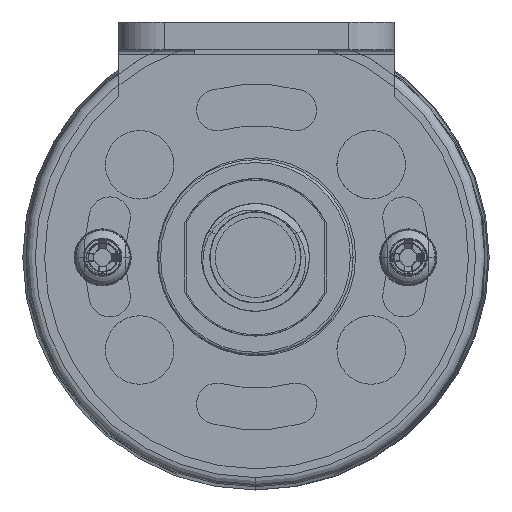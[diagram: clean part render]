
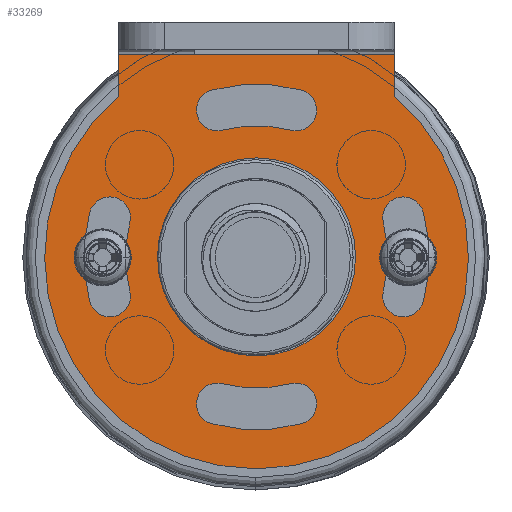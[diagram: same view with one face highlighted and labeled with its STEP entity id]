
A CAD part, front view. The second image highlights one B-rep face of the part: STEP entity #33269.
In plain terms, the highlighted planar face has unit normal (0, -1, 0).
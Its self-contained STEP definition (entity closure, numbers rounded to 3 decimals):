
#32469=CARTESIAN_POINT('',(0.,0.,0.));
#32470=DIRECTION('',(0.,-1.,0.));
#32471=DIRECTION('',(1.,0.,0.));
#32472=AXIS2_PLACEMENT_3D('',#32469,#32470,#32471);
#32474=CARTESIAN_POINT('',(0.,0.,0.));
#32475=DIRECTION('',(0.,-1.,0.));
#32476=DIRECTION('',(-1.,0.,0.));
#32477=AXIS2_PLACEMENT_3D('',#32474,#32475,#32476);
#32479=CARTESIAN_POINT('',(0.,0.,0.));
#32480=DIRECTION('',(0.,1.,0.));
#32481=DIRECTION('',(0.259,0.,-0.966));
#32482=AXIS2_PLACEMENT_3D('',#32479,#32480,#32481);
#32484=CARTESIAN_POINT('',(-4.271,0.,-15.938));
#32485=DIRECTION('',(0.,-1.,0.));
#32486=DIRECTION('',(0.259,0.,0.966));
#32487=AXIS2_PLACEMENT_3D('',#32484,#32485,#32486);
#32489=CARTESIAN_POINT('',(0.,0.,0.));
#32490=DIRECTION('',(0.,-1.,0.));
#32491=DIRECTION('',(-0.259,0.,-0.966));
#32492=AXIS2_PLACEMENT_3D('',#32489,#32490,#32491);
#32494=CARTESIAN_POINT('',(4.271,0.,-15.938));
#32495=DIRECTION('',(0.,-1.,0.));
#32496=DIRECTION('',(0.259,0.,-0.966));
#32497=AXIS2_PLACEMENT_3D('',#32494,#32495,#32496);
#32499=CARTESIAN_POINT('',(-15.938,0.,-4.271));
#32500=DIRECTION('',(0.,-1.,0.));
#32501=DIRECTION('',(-0.966,0.,-0.259));
#32502=AXIS2_PLACEMENT_3D('',#32499,#32500,#32501);
#32504=CARTESIAN_POINT('',(0.,0.,0.));
#32505=DIRECTION('',(0.,1.,0.));
#32506=DIRECTION('',(-0.966,0.,-0.259));
#32507=AXIS2_PLACEMENT_3D('',#32504,#32505,#32506);
#32509=CARTESIAN_POINT('',(-15.938,0.,4.271));
#32510=DIRECTION('',(0.,-1.,0.));
#32511=DIRECTION('',(0.966,0.,-0.259));
#32512=AXIS2_PLACEMENT_3D('',#32509,#32510,#32511);
#32514=CARTESIAN_POINT('',(0.,0.,0.));
#32515=DIRECTION('',(0.,-1.,0.));
#32516=DIRECTION('',(-0.966,0.,0.259));
#32517=AXIS2_PLACEMENT_3D('',#32514,#32515,#32516);
#32519=CARTESIAN_POINT('',(-4.271,0.,15.938));
#32520=DIRECTION('',(0.,-1.,0.));
#32521=DIRECTION('',(-0.259,0.,0.966));
#32522=AXIS2_PLACEMENT_3D('',#32519,#32520,#32521);
#32524=CARTESIAN_POINT('',(0.,0.,0.));
#32525=DIRECTION('',(0.,1.,0.));
#32526=DIRECTION('',(-0.259,0.,0.966));
#32527=AXIS2_PLACEMENT_3D('',#32524,#32525,#32526);
#32529=CARTESIAN_POINT('',(4.271,0.,15.938));
#32530=DIRECTION('',(0.,-1.,0.));
#32531=DIRECTION('',(-0.259,0.,-0.966));
#32532=AXIS2_PLACEMENT_3D('',#32529,#32530,#32531);
#32534=CARTESIAN_POINT('',(0.,0.,0.));
#32535=DIRECTION('',(0.,-1.,0.));
#32536=DIRECTION('',(0.259,0.,0.966));
#32537=AXIS2_PLACEMENT_3D('',#32534,#32535,#32536);
#32539=CARTESIAN_POINT('',(15.938,0.,4.271));
#32540=DIRECTION('',(0.,-1.,0.));
#32541=DIRECTION('',(0.966,0.,0.259));
#32542=AXIS2_PLACEMENT_3D('',#32539,#32540,#32541);
#32544=CARTESIAN_POINT('',(0.,0.,0.));
#32545=DIRECTION('',(0.,1.,0.));
#32546=DIRECTION('',(0.966,0.,0.259));
#32547=AXIS2_PLACEMENT_3D('',#32544,#32545,#32546);
#32549=CARTESIAN_POINT('',(15.938,0.,-4.271));
#32550=DIRECTION('',(0.,-1.,0.));
#32551=DIRECTION('',(-0.966,0.,0.259));
#32552=AXIS2_PLACEMENT_3D('',#32549,#32550,#32551);
#32554=CARTESIAN_POINT('',(0.,0.,0.));
#32555=DIRECTION('',(0.,-1.,0.));
#32556=DIRECTION('',(0.966,0.,-0.259));
#32557=AXIS2_PLACEMENT_3D('',#32554,#32555,#32556);
#32559=DIRECTION('',(-1.,0.,0.));
#32560=VECTOR('',#32559,13.5);
#32561=CARTESIAN_POINT('',(6.75,0.,-22.));
#32562=LINE('',#32561,#32560);
#32563=DIRECTION('',(0.,0.,1.));
#32564=VECTOR('',#32563,4.564);
#32565=CARTESIAN_POINT('',(-15.,0.,-22.));
#32566=LINE('',#32565,#32564);
#32567=CARTESIAN_POINT('',(0.,0.,0.));
#32568=DIRECTION('',(0.,1.,0.));
#32569=DIRECTION('',(-0.652,0.,-0.758));
#32570=AXIS2_PLACEMENT_3D('',#32567,#32568,#32569);
#32572=DIRECTION('',(0.,0.,-1.));
#32573=VECTOR('',#32572,4.564);
#32574=CARTESIAN_POINT('',(15.,0.,-17.436));
#32575=LINE('',#32574,#32573);
#32649=DIRECTION('',(1.,0.,0.));
#32650=VECTOR('',#32649,8.25);
#32651=CARTESIAN_POINT('',(6.75,0.,-22.));
#32652=LINE('',#32651,#32650);
#32667=DIRECTION('',(1.,0.,0.));
#32668=VECTOR('',#32667,8.25);
#32669=CARTESIAN_POINT('',(-15.,0.,-22.));
#32670=LINE('',#32669,#32668);
#32984=CARTESIAN_POINT('',(10.75,0.,0.));
#32985=CARTESIAN_POINT('',(-10.75,0.,0.));
#32986=VERTEX_POINT('',#32984);
#32987=VERTEX_POINT('',#32985);
#32988=CARTESIAN_POINT('',(3.688,0.,-13.764));
#32989=CARTESIAN_POINT('',(-3.688,0.,-13.764));
#32990=VERTEX_POINT('',#32988);
#32991=VERTEX_POINT('',#32989);
#32992=CARTESIAN_POINT('',(-4.853,0.,-18.111));
#32993=VERTEX_POINT('',#32992);
#32994=CARTESIAN_POINT('',(4.853,0.,-18.111));
#32995=VERTEX_POINT('',#32994);
#32996=CARTESIAN_POINT('',(-18.111,0.,-4.853));
#32997=CARTESIAN_POINT('',(-13.764,0.,-3.688));
#32998=VERTEX_POINT('',#32996);
#32999=VERTEX_POINT('',#32997);
#33000=CARTESIAN_POINT('',(-13.764,0.,3.688));
#33001=VERTEX_POINT('',#33000);
#33002=CARTESIAN_POINT('',(-18.111,0.,4.853));
#33003=VERTEX_POINT('',#33002);
#33004=CARTESIAN_POINT('',(-4.853,0.,18.111));
#33005=CARTESIAN_POINT('',(-3.688,0.,13.764));
#33006=VERTEX_POINT('',#33004);
#33007=VERTEX_POINT('',#33005);
#33008=CARTESIAN_POINT('',(3.688,0.,13.764));
#33009=VERTEX_POINT('',#33008);
#33010=CARTESIAN_POINT('',(4.853,0.,18.111));
#33011=VERTEX_POINT('',#33010);
#33012=CARTESIAN_POINT('',(18.111,0.,4.853));
#33013=CARTESIAN_POINT('',(13.764,0.,3.688));
#33014=VERTEX_POINT('',#33012);
#33015=VERTEX_POINT('',#33013);
#33016=CARTESIAN_POINT('',(13.764,0.,-3.688));
#33017=VERTEX_POINT('',#33016);
#33018=CARTESIAN_POINT('',(18.111,0.,-4.853));
#33019=VERTEX_POINT('',#33018);
#33020=CARTESIAN_POINT('',(-15.,0.,-17.436));
#33021=CARTESIAN_POINT('',(15.,0.,-17.436));
#33022=VERTEX_POINT('',#33020);
#33023=VERTEX_POINT('',#33021);
#33028=CARTESIAN_POINT('',(15.,0.,-22.));
#33029=VERTEX_POINT('',#33028);
#33030=CARTESIAN_POINT('',(-15.,0.,-22.));
#33031=VERTEX_POINT('',#33030);
#33048=CARTESIAN_POINT('',(6.75,0.,-22.));
#33049=CARTESIAN_POINT('',(-6.75,0.,-22.));
#33050=VERTEX_POINT('',#33048);
#33051=VERTEX_POINT('',#33049);
#33206=CARTESIAN_POINT('',(0.,0.,0.));
#33207=DIRECTION('',(0.,1.,0.));
#33208=DIRECTION('',(1.,0.,0.));
#33209=AXIS2_PLACEMENT_3D('',#33206,#33207,#33208);
#33210=PLANE('',#33209);
#33212=ORIENTED_EDGE('',*,*,#33211,.F.);
#33214=ORIENTED_EDGE('',*,*,#33213,.T.);
#33216=ORIENTED_EDGE('',*,*,#33215,.F.);
#33218=ORIENTED_EDGE('',*,*,#33217,.T.);
#33220=ORIENTED_EDGE('',*,*,#33219,.T.);
#33222=ORIENTED_EDGE('',*,*,#33221,.T.);
#33223=EDGE_LOOP('',(#33212,#33214,#33216,#33218,#33220,#33222));
#33224=FACE_OUTER_BOUND('',#33223,.F.);
#33226=ORIENTED_EDGE('',*,*,#33225,.T.);
#33228=ORIENTED_EDGE('',*,*,#33227,.T.);
#33230=ORIENTED_EDGE('',*,*,#33229,.T.);
#33232=ORIENTED_EDGE('',*,*,#33231,.T.);
#33233=EDGE_LOOP('',(#33226,#33228,#33230,#33232));
#33234=FACE_BOUND('',#33233,.F.);
#33236=ORIENTED_EDGE('',*,*,#33235,.T.);
#33238=ORIENTED_EDGE('',*,*,#33237,.T.);
#33240=ORIENTED_EDGE('',*,*,#33239,.T.);
#33242=ORIENTED_EDGE('',*,*,#33241,.T.);
#33243=EDGE_LOOP('',(#33236,#33238,#33240,#33242));
#33244=FACE_BOUND('',#33243,.F.);
#33246=ORIENTED_EDGE('',*,*,#33245,.T.);
#33248=ORIENTED_EDGE('',*,*,#33247,.T.);
#33250=ORIENTED_EDGE('',*,*,#33249,.T.);
#33252=ORIENTED_EDGE('',*,*,#33251,.T.);
#33253=EDGE_LOOP('',(#33246,#33248,#33250,#33252));
#33254=FACE_BOUND('',#33253,.F.);
#33256=ORIENTED_EDGE('',*,*,#33255,.T.);
#33258=ORIENTED_EDGE('',*,*,#33257,.T.);
#33260=ORIENTED_EDGE('',*,*,#33259,.T.);
#33262=ORIENTED_EDGE('',*,*,#33261,.T.);
#33263=EDGE_LOOP('',(#33256,#33258,#33260,#33262));
#33264=FACE_BOUND('',#33263,.F.);
#33265=ORIENTED_EDGE('',*,*,#33186,.T.);
#33266=ORIENTED_EDGE('',*,*,#33200,.T.);
#33267=EDGE_LOOP('',(#33265,#33266));
#33268=FACE_BOUND('',#33267,.F.);
#33269=ADVANCED_FACE('',(#33224,#33234,#33244,#33254,#33264,#33268),#33210,.F.);
#32473=CIRCLE('',#32472,10.75);
#32478=CIRCLE('',#32477,10.75);
#32483=CIRCLE('',#32482,14.25);
#32488=CIRCLE('',#32487,2.25);
#32493=CIRCLE('',#32492,18.75);
#32498=CIRCLE('',#32497,2.25);
#32503=CIRCLE('',#32502,2.25);
#32508=CIRCLE('',#32507,14.25);
#32513=CIRCLE('',#32512,2.25);
#32518=CIRCLE('',#32517,18.75);
#32523=CIRCLE('',#32522,2.25);
#32528=CIRCLE('',#32527,14.25);
#32533=CIRCLE('',#32532,2.25);
#32538=CIRCLE('',#32537,18.75);
#32543=CIRCLE('',#32542,2.25);
#32548=CIRCLE('',#32547,14.25);
#32553=CIRCLE('',#32552,2.25);
#32558=CIRCLE('',#32557,18.75);
#32571=CIRCLE('',#32570,23.);
#33186=EDGE_CURVE('',#32986,#32987,#32473,.T.);
#33200=EDGE_CURVE('',#32987,#32986,#32478,.T.);
#33211=EDGE_CURVE('',#33050,#33029,#32652,.T.);
#33213=EDGE_CURVE('',#33050,#33051,#32562,.T.);
#33215=EDGE_CURVE('',#33031,#33051,#32670,.T.);
#33217=EDGE_CURVE('',#33031,#33022,#32566,.T.);
#33219=EDGE_CURVE('',#33022,#33023,#32571,.T.);
#33221=EDGE_CURVE('',#33023,#33029,#32575,.T.);
#33225=EDGE_CURVE('',#32990,#32991,#32483,.T.);
#33227=EDGE_CURVE('',#32991,#32993,#32488,.T.);
#33229=EDGE_CURVE('',#32993,#32995,#32493,.T.);
#33231=EDGE_CURVE('',#32995,#32990,#32498,.T.);
#33235=EDGE_CURVE('',#32998,#32999,#32503,.T.);
#33237=EDGE_CURVE('',#32999,#33001,#32508,.T.);
#33239=EDGE_CURVE('',#33001,#33003,#32513,.T.);
#33241=EDGE_CURVE('',#33003,#32998,#32518,.T.);
#33245=EDGE_CURVE('',#33006,#33007,#32523,.T.);
#33247=EDGE_CURVE('',#33007,#33009,#32528,.T.);
#33249=EDGE_CURVE('',#33009,#33011,#32533,.T.);
#33251=EDGE_CURVE('',#33011,#33006,#32538,.T.);
#33255=EDGE_CURVE('',#33014,#33015,#32543,.T.);
#33257=EDGE_CURVE('',#33015,#33017,#32548,.T.);
#33259=EDGE_CURVE('',#33017,#33019,#32553,.T.);
#33261=EDGE_CURVE('',#33019,#33014,#32558,.T.);
